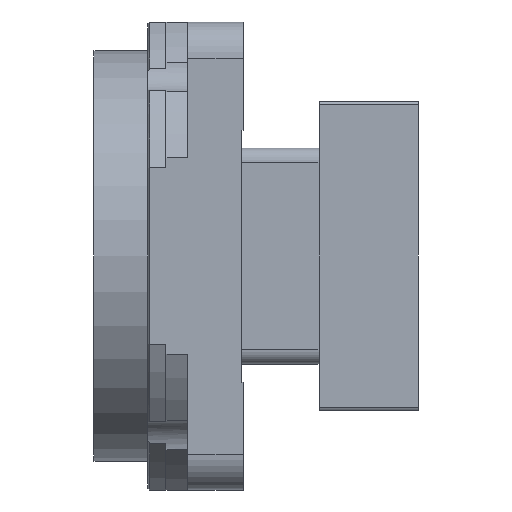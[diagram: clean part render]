
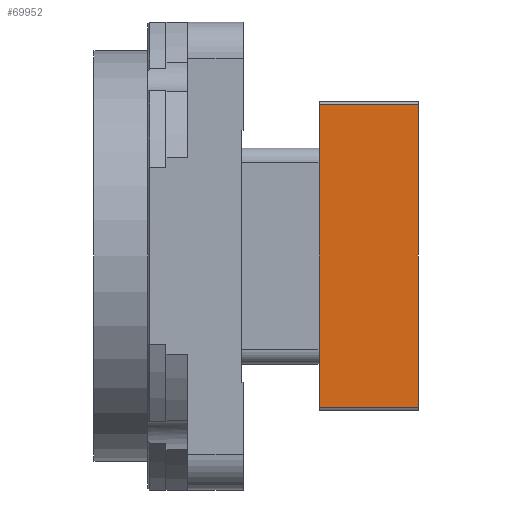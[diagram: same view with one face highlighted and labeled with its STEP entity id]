
A CAD part, left-side view. The second image highlights one B-rep face of the part: STEP entity #69952.
In plain terms, the highlighted planar face has unit normal (-1, 0, 0).
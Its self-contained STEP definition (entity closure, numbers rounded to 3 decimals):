
#66844 = PLANE('',#66845);
#66845 = AXIS2_PLACEMENT_3D('',#66846,#66847,#66848);
#66846 = CARTESIAN_POINT('',(22.4,-49.,42.));
#66847 = DIRECTION('',(0.,-1.,0.));
#66848 = DIRECTION('',(0.,-0.,-1.));
#68496 = VERTEX_POINT('',#68497);
#68497 = CARTESIAN_POINT('',(21.4,-49.,42.));
#68512 = CYLINDRICAL_SURFACE('',#68513,1.);
#68513 = AXIS2_PLACEMENT_3D('',#68514,#68515,#68516);
#68514 = CARTESIAN_POINT('',(22.4,-21.5,42.));
#68515 = DIRECTION('',(0.,-1.,0.));
#68516 = DIRECTION('',(0.,0.,-1.));
#68524 = EDGE_CURVE('',#68496,#68525,#68527,.T.);
#68525 = VERTEX_POINT('',#68526);
#68526 = CARTESIAN_POINT('',(21.4,-49.,-42.));
#68527 = SURFACE_CURVE('',#68528,(#68532,#68539),.PCURVE_S1.);
#68528 = LINE('',#68529,#68530);
#68529 = CARTESIAN_POINT('',(21.4,-49.,42.));
#68530 = VECTOR('',#68531,1.);
#68531 = DIRECTION('',(0.,0.,-1.));
#68532 = PCURVE('',#66844,#68533);
#68533 = DEFINITIONAL_REPRESENTATION('',(#68534),#68538);
#68534 = LINE('',#68535,#68536);
#68535 = CARTESIAN_POINT('',(-0.,-1.));
#68536 = VECTOR('',#68537,1.);
#68537 = DIRECTION('',(1.,0.));
#68538 = ( GEOMETRIC_REPRESENTATION_CONTEXT(2) 
PARAMETRIC_REPRESENTATION_CONTEXT() REPRESENTATION_CONTEXT('2D SPACE',''
  ) );
#68539 = PCURVE('',#68540,#68545);
#68540 = PLANE('',#68541);
#68541 = AXIS2_PLACEMENT_3D('',#68542,#68543,#68544);
#68542 = CARTESIAN_POINT('',(21.4,-21.5,43.));
#68543 = DIRECTION('',(-1.,0.,0.));
#68544 = DIRECTION('',(0.,0.,1.));
#68545 = DEFINITIONAL_REPRESENTATION('',(#68546),#68550);
#68546 = LINE('',#68547,#68548);
#68547 = CARTESIAN_POINT('',(-1.,-27.5));
#68548 = VECTOR('',#68549,1.);
#68549 = DIRECTION('',(-1.,0.));
#68550 = ( GEOMETRIC_REPRESENTATION_CONTEXT(2) 
PARAMETRIC_REPRESENTATION_CONTEXT() REPRESENTATION_CONTEXT('2D SPACE',''
  ) );
#68569 = CYLINDRICAL_SURFACE('',#68570,1.);
#68570 = AXIS2_PLACEMENT_3D('',#68571,#68572,#68573);
#68571 = CARTESIAN_POINT('',(22.4,-21.5,-42.));
#68572 = DIRECTION('',(0.,-1.,0.));
#68573 = DIRECTION('',(0.,0.,-1.));
#69190 = PLANE('',#69191);
#69191 = AXIS2_PLACEMENT_3D('',#69192,#69193,#69194);
#69192 = CARTESIAN_POINT('',(0.,-21.5,0.));
#69193 = DIRECTION('',(0.,-1.,0.));
#69194 = DIRECTION('',(0.,-0.,-1.));
#69606 = VERTEX_POINT('',#69607);
#69607 = CARTESIAN_POINT('',(21.4,-21.5,-42.));
#69629 = EDGE_CURVE('',#69630,#69606,#69632,.T.);
#69630 = VERTEX_POINT('',#69631);
#69631 = CARTESIAN_POINT('',(21.4,-21.5,42.));
#69632 = SURFACE_CURVE('',#69633,(#69637,#69644),.PCURVE_S1.);
#69633 = LINE('',#69634,#69635);
#69634 = CARTESIAN_POINT('',(21.4,-21.5,0.));
#69635 = VECTOR('',#69636,1.);
#69636 = DIRECTION('',(0.,-0.,-1.));
#69637 = PCURVE('',#69190,#69638);
#69638 = DEFINITIONAL_REPRESENTATION('',(#69639),#69643);
#69639 = LINE('',#69640,#69641);
#69640 = CARTESIAN_POINT('',(0.,21.4));
#69641 = VECTOR('',#69642,1.);
#69642 = DIRECTION('',(1.,0.));
#69643 = ( GEOMETRIC_REPRESENTATION_CONTEXT(2) 
PARAMETRIC_REPRESENTATION_CONTEXT() REPRESENTATION_CONTEXT('2D SPACE',''
  ) );
#69644 = PCURVE('',#68540,#69645);
#69645 = DEFINITIONAL_REPRESENTATION('',(#69646),#69650);
#69646 = LINE('',#69647,#69648);
#69647 = CARTESIAN_POINT('',(-43.,0.));
#69648 = VECTOR('',#69649,1.);
#69649 = DIRECTION('',(-1.,0.));
#69650 = ( GEOMETRIC_REPRESENTATION_CONTEXT(2) 
PARAMETRIC_REPRESENTATION_CONTEXT() REPRESENTATION_CONTEXT('2D SPACE',''
  ) );
#69747 = EDGE_CURVE('',#68496,#69630,#69748,.T.);
#69748 = SURFACE_CURVE('',#69749,(#69753,#69760),.PCURVE_S1.);
#69749 = LINE('',#69750,#69751);
#69750 = CARTESIAN_POINT('',(21.4,-21.5,42.));
#69751 = VECTOR('',#69752,1.);
#69752 = DIRECTION('',(0.,1.,0.));
#69753 = PCURVE('',#68512,#69754);
#69754 = DEFINITIONAL_REPRESENTATION('',(#69755),#69759);
#69755 = LINE('',#69756,#69757);
#69756 = CARTESIAN_POINT('',(4.712,0.));
#69757 = VECTOR('',#69758,1.);
#69758 = DIRECTION('',(0.,-1.));
#69759 = ( GEOMETRIC_REPRESENTATION_CONTEXT(2) 
PARAMETRIC_REPRESENTATION_CONTEXT() REPRESENTATION_CONTEXT('2D SPACE',''
  ) );
#69760 = PCURVE('',#68540,#69761);
#69761 = DEFINITIONAL_REPRESENTATION('',(#69762),#69766);
#69762 = LINE('',#69763,#69764);
#69763 = CARTESIAN_POINT('',(-1.,0.));
#69764 = VECTOR('',#69765,1.);
#69765 = DIRECTION('',(0.,1.));
#69766 = ( GEOMETRIC_REPRESENTATION_CONTEXT(2) 
PARAMETRIC_REPRESENTATION_CONTEXT() REPRESENTATION_CONTEXT('2D SPACE',''
  ) );
#69931 = EDGE_CURVE('',#69606,#68525,#69932,.T.);
#69932 = SURFACE_CURVE('',#69933,(#69937,#69944),.PCURVE_S1.);
#69933 = LINE('',#69934,#69935);
#69934 = CARTESIAN_POINT('',(21.4,-21.5,-42.));
#69935 = VECTOR('',#69936,1.);
#69936 = DIRECTION('',(-0.,-1.,-0.));
#69937 = PCURVE('',#68569,#69938);
#69938 = DEFINITIONAL_REPRESENTATION('',(#69939),#69943);
#69939 = LINE('',#69940,#69941);
#69940 = CARTESIAN_POINT('',(4.712,0.));
#69941 = VECTOR('',#69942,1.);
#69942 = DIRECTION('',(0.,1.));
#69943 = ( GEOMETRIC_REPRESENTATION_CONTEXT(2) 
PARAMETRIC_REPRESENTATION_CONTEXT() REPRESENTATION_CONTEXT('2D SPACE',''
  ) );
#69944 = PCURVE('',#68540,#69945);
#69945 = DEFINITIONAL_REPRESENTATION('',(#69946),#69950);
#69946 = LINE('',#69947,#69948);
#69947 = CARTESIAN_POINT('',(-85.,0.));
#69948 = VECTOR('',#69949,1.);
#69949 = DIRECTION('',(0.,-1.));
#69950 = ( GEOMETRIC_REPRESENTATION_CONTEXT(2) 
PARAMETRIC_REPRESENTATION_CONTEXT() REPRESENTATION_CONTEXT('2D SPACE',''
  ) );
#69952 = ADVANCED_FACE('',(#69953),#68540,.T.);
#69953 = FACE_BOUND('',#69954,.T.);
#69954 = EDGE_LOOP('',(#69955,#69956,#69957,#69958));
#69955 = ORIENTED_EDGE('',*,*,#69931,.T.);
#69956 = ORIENTED_EDGE('',*,*,#68524,.F.);
#69957 = ORIENTED_EDGE('',*,*,#69747,.T.);
#69958 = ORIENTED_EDGE('',*,*,#69629,.T.);
